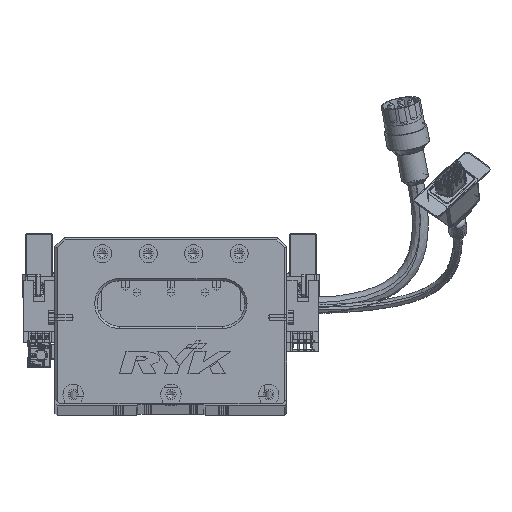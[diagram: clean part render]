
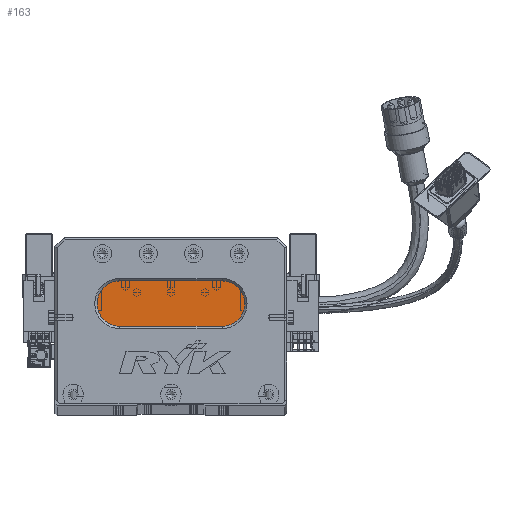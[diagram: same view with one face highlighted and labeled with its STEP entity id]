
A CAD part, top view. The second image highlights one B-rep face of the part: STEP entity #163.
In plain terms, the highlighted planar face has unit normal (0, 0, 1) as drawn and (0, 0, -1) by its records, which use the part's own axes.
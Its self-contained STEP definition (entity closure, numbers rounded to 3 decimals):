
#163 = ADVANCED_FACE ( 'NONE', ( #16241 ), #75295, .T. ) ;
#743 = DIRECTION ( 'NONE',  ( 0., 0., -1. ) ) ;
#1116 = EDGE_CURVE ( 'NONE', #31879, #61982, #52412, .T. ) ;
#1270 = EDGE_LOOP ( 'NONE', ( #64680, #31979, #60653, #11963, #18081 ) ) ;
#4814 = CIRCLE ( 'NONE', #83452, 10. ) ;
#5129 = DIRECTION ( 'NONE',  ( -1., 0., 0. ) ) ;
#5462 = CARTESIAN_POINT ( 'NONE',  ( 18.5, 44., 13. ) ) ;
#9216 = DIRECTION ( 'NONE',  ( -1., 0., 0. ) ) ;
#9633 = CIRCLE ( 'NONE', #28021, 10. ) ;
#11032 = DIRECTION ( 'NONE',  ( -1., 0., 0. ) ) ;
#11305 = CARTESIAN_POINT ( 'NONE',  ( 28.5, 44., 13. ) ) ;
#11963 = ORIENTED_EDGE ( 'NONE', *, *, #77735, .T. ) ;
#12107 = DIRECTION ( 'NONE',  ( 1., 0., 0. ) ) ;
#13529 = CARTESIAN_POINT ( 'NONE',  ( 28.5, 54., 13. ) ) ;
#16241 = FACE_OUTER_BOUND ( 'NONE', #1270, .T. ) ;
#18081 = ORIENTED_EDGE ( 'NONE', *, *, #19855, .T. ) ;
#19855 = EDGE_CURVE ( 'NONE', #46523, #20846, #37542, .T. ) ;
#20502 = CARTESIAN_POINT ( 'NONE',  ( 73.5, 34., 13. ) ) ;
#20846 = VERTEX_POINT ( 'NONE', #77945 ) ;
#22403 = EDGE_CURVE ( 'NONE', #20846, #31879, #45343, .T. ) ;
#26536 = CARTESIAN_POINT ( 'NONE',  ( 73.5, 34., 13. ) ) ;
#28021 = AXIS2_PLACEMENT_3D ( 'NONE', #63834, #31622, #5129 ) ;
#28543 = AXIS2_PLACEMENT_3D ( 'NONE', #60852, #56356, #9216 ) ;
#30924 = CARTESIAN_POINT ( 'NONE',  ( 28.5, 34., 13. ) ) ;
#31622 = DIRECTION ( 'NONE',  ( 0., 0., -1. ) ) ;
#31879 = VERTEX_POINT ( 'NONE', #26536 ) ;
#31979 = ORIENTED_EDGE ( 'NONE', *, *, #1116, .T. ) ;
#37225 = DIRECTION ( 'NONE',  ( 0., 0., -1. ) ) ;
#37542 = LINE ( 'NONE', #70254, #59759 ) ;
#40273 = DIRECTION ( 'NONE',  ( -1., 0., 0. ) ) ;
#45343 = CIRCLE ( 'NONE', #62353, 10. ) ;
#45653 = DIRECTION ( 'NONE',  ( -1., 0., 0. ) ) ;
#46523 = VERTEX_POINT ( 'NONE', #13529 ) ;
#48363 = VECTOR ( 'NONE', #40273, 1000. ) ;
#52412 = LINE ( 'NONE', #20502, #48363 ) ;
#55002 = VERTEX_POINT ( 'NONE', #5462 ) ;
#56356 = DIRECTION ( 'NONE',  ( 0., 0., -1. ) ) ;
#59759 = VECTOR ( 'NONE', #12107, 1000. ) ;
#60653 = ORIENTED_EDGE ( 'NONE', *, *, #80884, .T. ) ;
#60852 = CARTESIAN_POINT ( 'NONE',  ( 73.5, 44., 13. ) ) ;
#61982 = VERTEX_POINT ( 'NONE', #30924 ) ;
#62353 = AXIS2_PLACEMENT_3D ( 'NONE', #83479, #743, #45653 ) ;
#63834 = CARTESIAN_POINT ( 'NONE',  ( 28.5, 44., 13. ) ) ;
#64680 = ORIENTED_EDGE ( 'NONE', *, *, #22403, .T. ) ;
#70254 = CARTESIAN_POINT ( 'NONE',  ( 73.5, 54., 13. ) ) ;
#75295 = PLANE ( 'NONE',  #28543 ) ;
#77735 = EDGE_CURVE ( 'NONE', #55002, #46523, #9633, .T. ) ;
#77945 = CARTESIAN_POINT ( 'NONE',  ( 73.5, 54., 13. ) ) ;
#80884 = EDGE_CURVE ( 'NONE', #61982, #55002, #4814, .T. ) ;
#83452 = AXIS2_PLACEMENT_3D ( 'NONE', #11305, #37225, #11032 ) ;
#83479 = CARTESIAN_POINT ( 'NONE',  ( 73.5, 44., 13. ) ) ;
